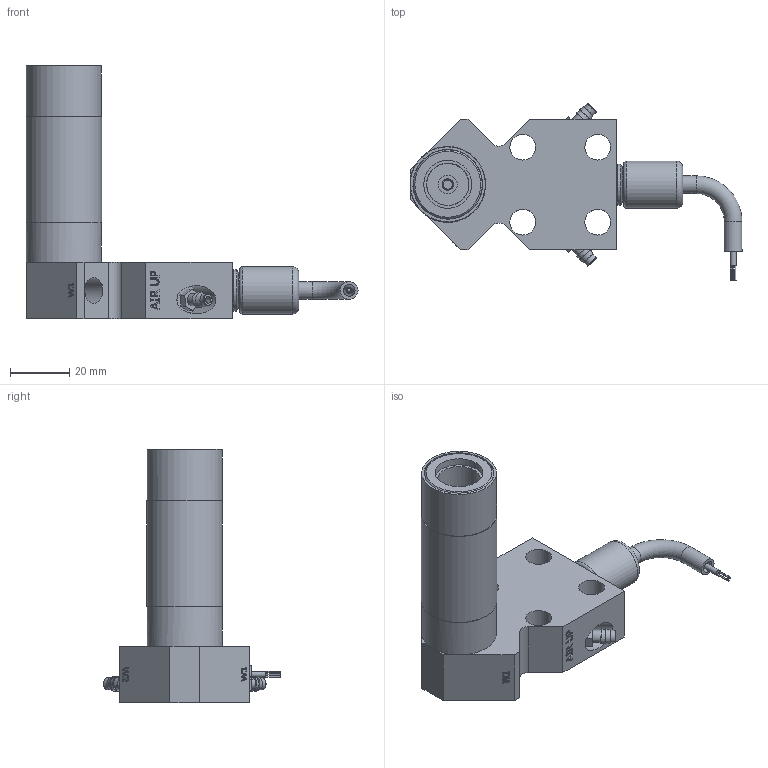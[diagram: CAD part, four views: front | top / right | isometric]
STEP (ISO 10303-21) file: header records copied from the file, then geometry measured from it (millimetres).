
FILE_DESCRIPTION(/* description */ ('ASSY,BODY,VF,LVDT,SXTR2,NHP'),/* implementation_level */ '2;1');
FILE_NAME(/* name */ 'C:\LVDT UPDATES\ASSY,BODY,VF,LVDT,SXTR2,NHP_0000811980.stp',/* time_stamp */ '2017-07-10T15:02:44-04:00',/* author */ ('tim.mcwilliams'),/* organization */ (''),/* preprocessor_version */ 'ST-DEVELOPER v16.5',/* originating_system */ 'Autodesk Inventor 2017',/* authorisation */ '');
FILE_SCHEMA (('AUTOMOTIVE_DESIGN { 1 0 10303 214 3 1 1 }'));
Products named in the file (1): ASSY,BODY,VF,LVDT,SXTR2,NHP
Bounding box: 112.48 x 60.06 x 85.72 mm (x, y, z)
Volume: 69041.8 mm3; surface area: 43618.4 mm2
Topology: 2 solids, 4 shells, 1081 faces, 2834 edges, 1871 vertices
Faces by surface type: plane 521, bspline 327, cylinder 153, cone 61, torus 19
Full cylindrical faces by diameter (mm): 0.5 x4, 0.55 x8, 1.984 x4, 2 x1, 2.381 x6, 3.15 x2, 3.175 x1, 3.81 x1, 4 x3, 4.064 x2, 4.216 x4, 4.763 x2, 6 x3, 6.35 x1, 8 x1, 8.731 x7, 9.525 x2, 10 x1, 12.01 x1, 12.141 x1, 12.7 x2, 13.665 x1, 13.716 x1, 14 x2, 14.287 x1, 14.351 x1, 15.206 x1, 16 x1, 16.272 x1, 20.777 x4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
Entity records: 88093 total; most frequent: CARTESIAN_POINT 62981, ORIENTED_EDGE 5290, DIRECTION 3991, EDGE_CURVE 2644, VERTEX_POINT 1800, LINE 1447, VECTOR 1447, EDGE_LOOP 1348
